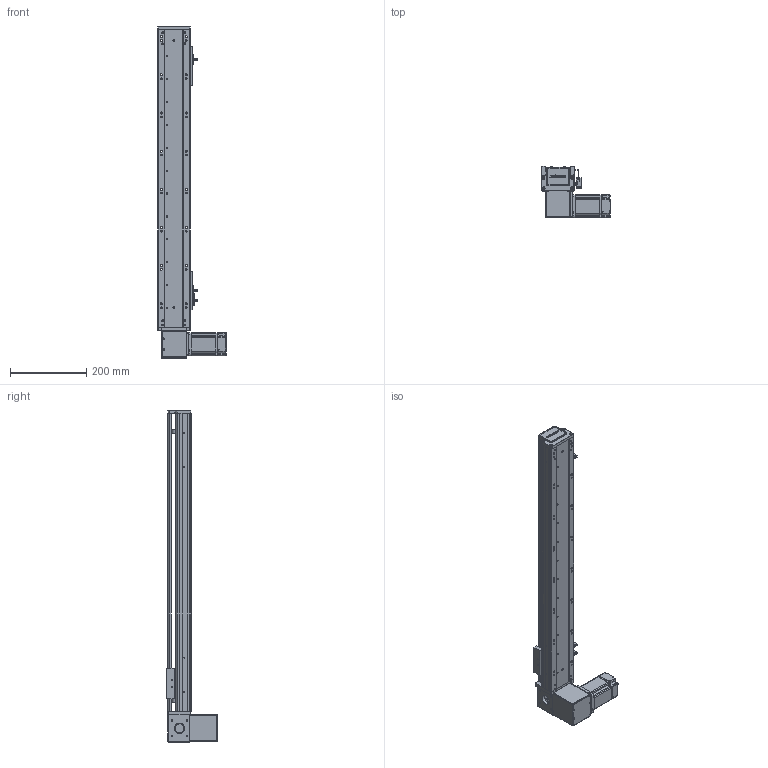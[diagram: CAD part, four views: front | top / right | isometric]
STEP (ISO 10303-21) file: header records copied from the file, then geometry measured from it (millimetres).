
FILE_DESCRIPTION (( 'STEP AP203' ), '1' );
FILE_NAME ('RY80-T-300-DR.SLDASM_600.step', '2021-03-01T01:49:32', ( '盈信电脑' ), ( '东莞市道滘镇水果街19号' ), 'SwSTEP 2.0', 'SolidWorks 2012', '' );
FILE_SCHEMA (( 'CONFIG_CONTROL_DESIGN' ));
Length unit declared in the file: millimetre
Products named in the file (18): 1; RY80-T-M4蹟翐3; RY80-T-300-DR.SLDASM_600; RY80-T萇儂假蚾啣; RY80-T翋肮祭謫裔啣; RY80-T肮祭謫狟殏俋欶; RY80-T-上下折同步轮盖板; RY80-T肮祭湍揤輸1; RY80-T-翋肮祭謫釱; 滅袉蝶18-10; RY80-T肮祭湍揤輸2; 672嫖萇羲壽假蚾釱; 覜茼ん672; RY80俋离覜茼え; RY80-T-300-DR倰第菁釱_600; RY80-T肮祭謫臏賑輸; RY80-T綴裔啣; RY80-T-300-DR倰第奻裔啣_600
Assembly tree (21 placements, depth 2):
  RY80-T-300-DR.SLDASM_600
    RY80-T-300-DR倰第菁釱_600
    RY80-T肮祭謫臏賑輸
    RY80-T-300-DR倰第奻裔啣_600
    RY80-T綴裔啣
    672嫖萇羲壽假蚾釱  x2
    覜茼ん672  x3
    RY80俋离覜茼え
    RY80-T-翋肮祭謫釱
    RY80-T肮祭湍揤輸1
    RY80-T肮祭湍揤輸2
    滅袉蝶18-10  x2
    RY80-T翋肮祭謫裔啣
    RY80-T-上下折同步轮盖板
    RY80-T肮祭謫狟殏俋欶
    RY80-T萇儂假蚾啣
    1
    RY80-T-M4蹟翐3
Bounding box: 180 x 134.5 x 870 mm (x, y, z)
Volume: 1643867.1 mm3; surface area: 672133.4 mm2
Topology: 21 solids, 21 shells, 2445 faces, 6769 edges, 4396 vertices
Faces by surface type: plane 1317, cylinder 931, cone 141, bspline 56
Entity records: 78230 total; most frequent: CARTESIAN_POINT 19266, ORIENTED_EDGE 12182, DIRECTION 11366, EDGE_CURVE 6091, VERTEX_POINT 4000, AXIS2_PLACEMENT_3D 3812, LINE 3742, VECTOR 3742
